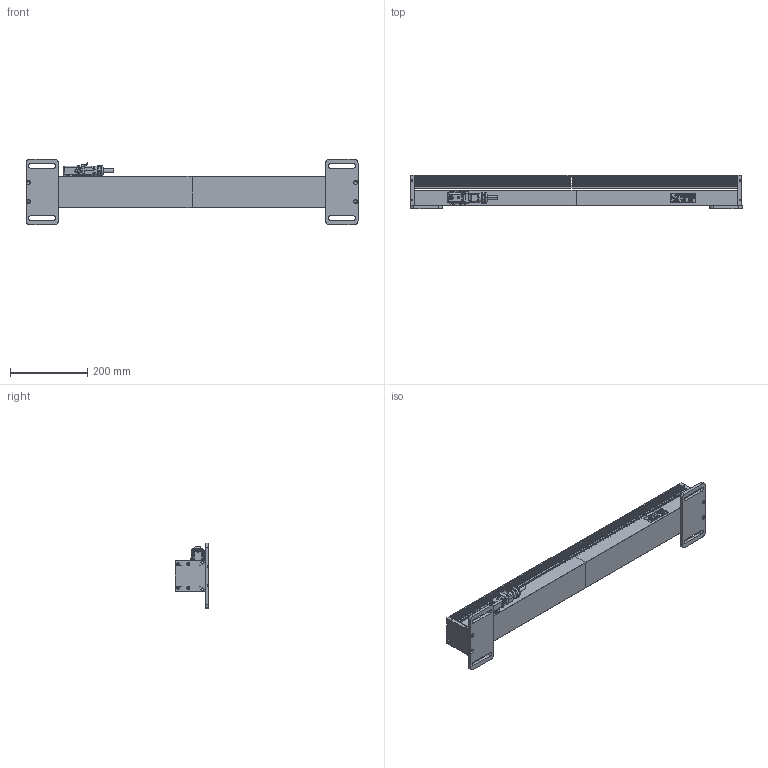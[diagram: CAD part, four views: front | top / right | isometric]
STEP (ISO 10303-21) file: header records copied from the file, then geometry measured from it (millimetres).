
FILE_DESCRIPTION (( 'STEP AP214' ), '1' );
FILE_NAME ('B21440_EMR800_.STEP', '2022-02-01T15:14:30', ( '' ), ( '' ), 'SwSTEP 2.0', 'SolidWorks 2014', '' );
FILE_SCHEMA (( 'AUTOMOTIVE_DESIGN' ));
Length unit declared in the file: millimetre
Products named in the file (1): B21440_EMR800_
Bounding box: 861 x 87.5 x 170 mm (x, y, z)
Surface area: 574324.3 mm2 (no closed solid volume)
Topology: 0 solids, 111 shells, 641 faces, 3473 edges, 2946 vertices
Faces by surface type: plane 300, cylinder 289, bspline 29, cone 13, torus 10
Entity records: 49579 total; most frequent: CARTESIAN_POINT 17316, ORIENTED_EDGE 4493, DIRECTION 4443, EDGE_CURVE 3472, VERTEX_POINT 2946, VECTOR 1979, LINE 1979, AXIS2_PLACEMENT_3D 1232
